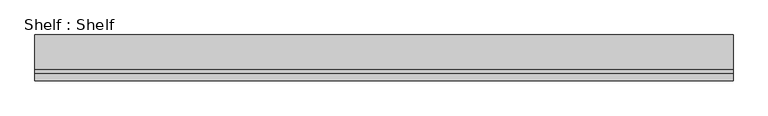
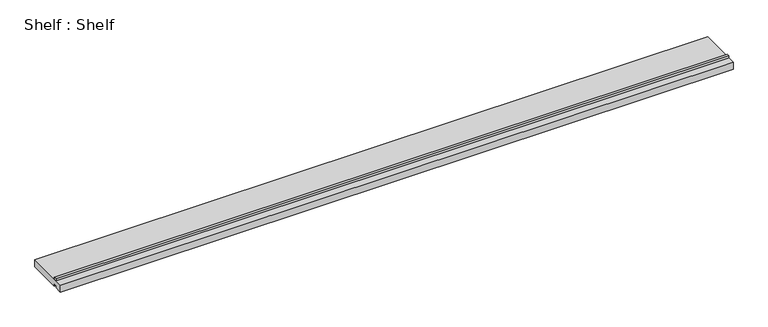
"""IFC4 building model written with IfcOpenShell, lengths in millimetres: furniture geometry, Shelf : Shelf."""

from ifc_helpers import new_model, si_unit, frame, origin, place, context, project, spatial, polyline, outline, extrude, source, transform, mapped, element, save


def shelf_shelf_80fad3a1(model_context):
    return source(origin(), model_context, "Body", "SweptSolid", [
        extrude(outline(polyline([(39.75, 1850.0), (39.75, 1900.0), (339.75, 1900.0), (339.75, 1850.0), (109.75, 1850.0), (109.75, 1865.0), (89.75, 1865.0), (89.75, 1850.0), (39.75, 1850.0)])), frame((-2164.2640687, 0.0, 0.0), z_axis=(1.0, 0.0, 0.0), x_axis=(0.0, 1.0, 0.0)), (0.0, 0.0, 1.0), 4578.5281373),
        extrude(outline(polyline([(2414.2640687, 89.75), (-2164.2640687, 89.75), (-2164.2640687, 109.75), (2414.2640687, 109.75), (2414.2640687, 89.75)])), frame((0.0, 0.0, 1900.0), z_axis=(0.0, 0.0, 1.0), x_axis=(1.0, 0.0, 0.0)), (0.0, 0.0, 1.0), 15.0),
    ])


if __name__ == "__main__":
    model = new_model("IFC4")
    model_context = context("Model", 3, world=origin())
    ifc_project = project(units=[si_unit("LENGTHUNIT", "METRE", prefix="MILLI")], contexts=[model_context])
    site = spatial("IfcSite", under=ifc_project)
    building = spatial("IfcBuilding", under=site)
    placement = place(None, origin())
    shelf_shelf_shape = shelf_shelf_80fad3a1(model_context)
    element("IfcFurniture", 1, ObjectType="Shelf : Shelf", at=placement, inside=building, context=model_context, shape_type="MappedRepresentation", body=[
        mapped(shelf_shelf_shape, transform((0.0, 0.0, 0.0), x_axis=(1.0, 0.0, 0.0), y_axis=(0.0, 1.0, 0.0), z_axis=(0.0, 0.0, 1.0))),
    ])
    save(model, "model.ifc")
